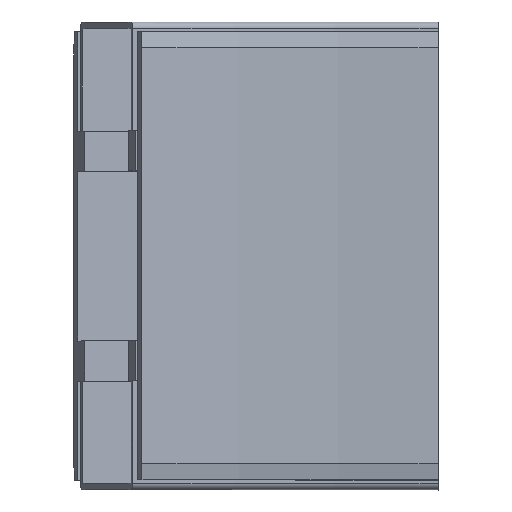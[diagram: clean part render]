
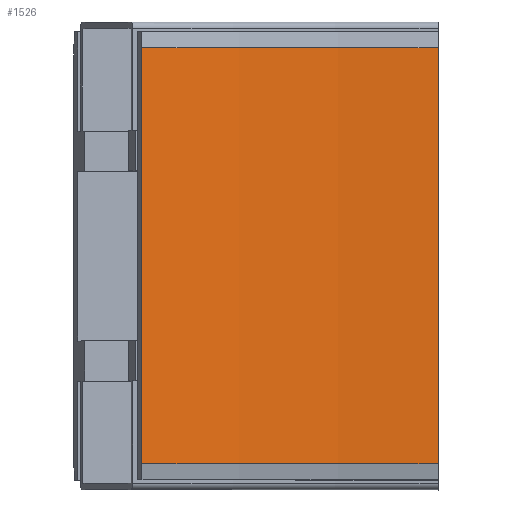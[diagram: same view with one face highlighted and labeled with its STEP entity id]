
A CAD part, top view. The second image highlights one B-rep face of the part: STEP entity #1526.
In plain terms, the highlighted cylindrical face has radius 357.5 mm (diameter 715 mm), a partial arc.
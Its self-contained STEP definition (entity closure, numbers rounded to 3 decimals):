
#80=CYLINDRICAL_SURFACE('',#1643,357.5);
#149=FACE_OUTER_BOUND('',#236,.T.);
#236=EDGE_LOOP('',(#1052,#1053,#1054,#1055));
#323=CIRCLE('',#1633,357.5);
#328=CIRCLE('',#1642,357.5);
#400=LINE('',#2215,#526);
#401=LINE('',#2216,#527);
#526=VECTOR('',#1808,10.);
#527=VECTOR('',#1809,10.);
#643=VERTEX_POINT('',#2183);
#644=VERTEX_POINT('',#2185);
#652=VERTEX_POINT('',#2209);
#653=VERTEX_POINT('',#2211);
#799=EDGE_CURVE('',#643,#644,#323,.T.);
#813=EDGE_CURVE('',#652,#653,#328,.T.);
#814=EDGE_CURVE('',#643,#652,#400,.T.);
#815=EDGE_CURVE('',#644,#653,#401,.T.);
#1052=ORIENTED_EDGE('',*,*,#814,.T.);
#1053=ORIENTED_EDGE('',*,*,#813,.T.);
#1054=ORIENTED_EDGE('',*,*,#815,.F.);
#1055=ORIENTED_EDGE('',*,*,#799,.F.);
#1526=ADVANCED_FACE('',(#149),#80,.F.);
#1633=AXIS2_PLACEMENT_3D('',#2186,#1777,#1778);
#1642=AXIS2_PLACEMENT_3D('',#2213,#1804,#1805);
#1643=AXIS2_PLACEMENT_3D('',#2214,#1806,#1807);
#1777=DIRECTION('center_axis',(0.,1.,0.));
#1778=DIRECTION('ref_axis',(0.,0.,-1.));
#1804=DIRECTION('center_axis',(0.,1.,0.));
#1805=DIRECTION('ref_axis',(0.,0.,
-1.));
#1806=DIRECTION('center_axis',(0.,1.,0.));
#1807=DIRECTION('ref_axis',(0.,0.,-1.));
#1808=DIRECTION('',(0.,1.,0.));
#1809=DIRECTION('',(0.,1.,0.));
#2183=CARTESIAN_POINT('',(0.,-65.,42.5));
#2185=CARTESIAN_POINT('',(-92.528,-65.,54.682));
#2186=CARTESIAN_POINT('Origin',(0.,-65.,
400.));
#2209=CARTESIAN_POINT('',(0.,65.,42.5));
#2211=CARTESIAN_POINT('',(-92.528,65.,54.682));
#2213=CARTESIAN_POINT('Origin',(0.,65.,400.));
#2214=CARTESIAN_POINT('Origin',(0.,0.,400.));
#2215=CARTESIAN_POINT('',(0.,-65.,42.5));
#2216=CARTESIAN_POINT('',(-92.528,-65.,54.682));
